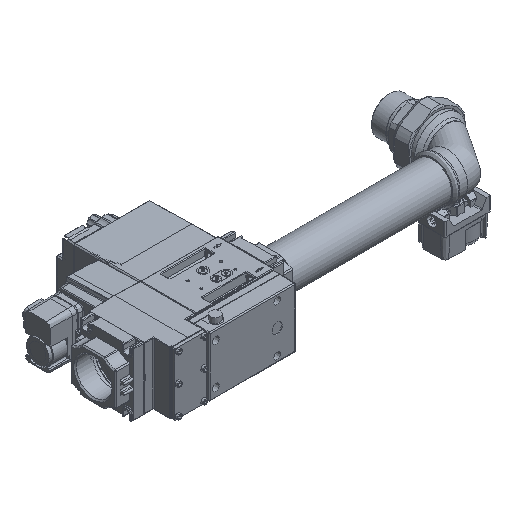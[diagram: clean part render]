
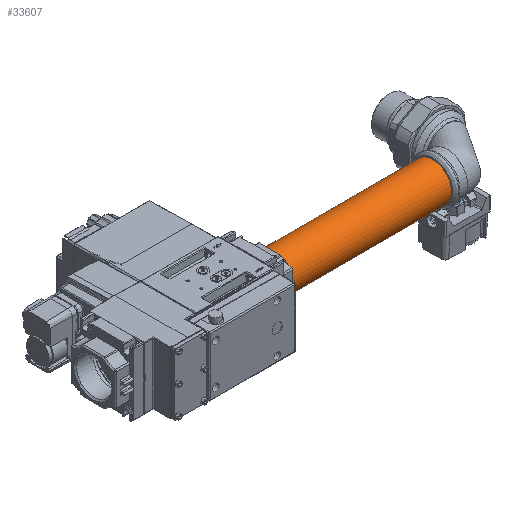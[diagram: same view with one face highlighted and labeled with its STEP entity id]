
A CAD part, isometric view. The second image highlights one B-rep face of the part: STEP entity #33607.
In plain terms, the highlighted cylindrical face has radius 30.15 mm (diameter 60.3 mm), a full revolution.
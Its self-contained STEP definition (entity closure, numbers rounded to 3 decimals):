
#2644 = FACE_OUTER_BOUND ( 'NONE', #190065, .T. ) ;
#13130 = CIRCLE ( 'NONE', #171993, 30.15 ) ;
#14251 = VERTEX_POINT ( 'NONE', #191886 ) ;
#17260 = FACE_OUTER_BOUND ( 'NONE', #108727, .T. ) ;
#25211 = AXIS2_PLACEMENT_3D ( 'NONE', #62085, #151806, #138145 ) ;
#29789 = CARTESIAN_POINT ( 'NONE',  ( -5., 0., 0. ) ) ;
#33607 = ADVANCED_FACE ( 'NONE', ( #2644, #17260 ), #107934, .T. ) ;
#43174 = DIRECTION ( 'NONE',  ( 1., 0., 0. ) ) ;
#54028 = VERTEX_POINT ( 'NONE', #113558 ) ;
#62085 = CARTESIAN_POINT ( 'NONE',  ( -279., 0., 0. ) ) ;
#74593 = DIRECTION ( 'NONE',  ( -1., 0., 0. ) ) ;
#80332 = EDGE_CURVE ( 'NONE', #14251, #14251, #13130, .T. ) ;
#100797 = CARTESIAN_POINT ( 'NONE',  ( -279., 0., 0. ) ) ;
#105369 = EDGE_CURVE ( 'NONE', #54028, #54028, #142375, .T. ) ;
#107934 = CYLINDRICAL_SURFACE ( 'NONE', #25211, 30.15 ) ;
#108727 = EDGE_LOOP ( 'NONE', ( #109445 ) ) ;
#109445 = ORIENTED_EDGE ( 'NONE', *, *, #105369, .T. ) ;
#113558 = CARTESIAN_POINT ( 'NONE',  ( -279., 7.191, -29.28 ) ) ;
#115432 = DIRECTION ( 'NONE',  ( 0., 0.239, -0.971 ) ) ;
#135067 = DIRECTION ( 'NONE',  ( 0., 0.239, -0.971 ) ) ;
#138145 = DIRECTION ( 'NONE',  ( 0., 0.239, -0.971 ) ) ;
#142375 = CIRCLE ( 'NONE', #167332, 30.15 ) ;
#151806 = DIRECTION ( 'NONE',  ( 1., 0., 0. ) ) ;
#167332 = AXIS2_PLACEMENT_3D ( 'NONE', #100797, #43174, #115432 ) ;
#169080 = ORIENTED_EDGE ( 'NONE', *, *, #80332, .T. ) ;
#171993 = AXIS2_PLACEMENT_3D ( 'NONE', #29789, #74593, #135067 ) ;
#190065 = EDGE_LOOP ( 'NONE', ( #169080 ) ) ;
#191886 = CARTESIAN_POINT ( 'NONE',  ( -5., 7.191, -29.28 ) ) ;
